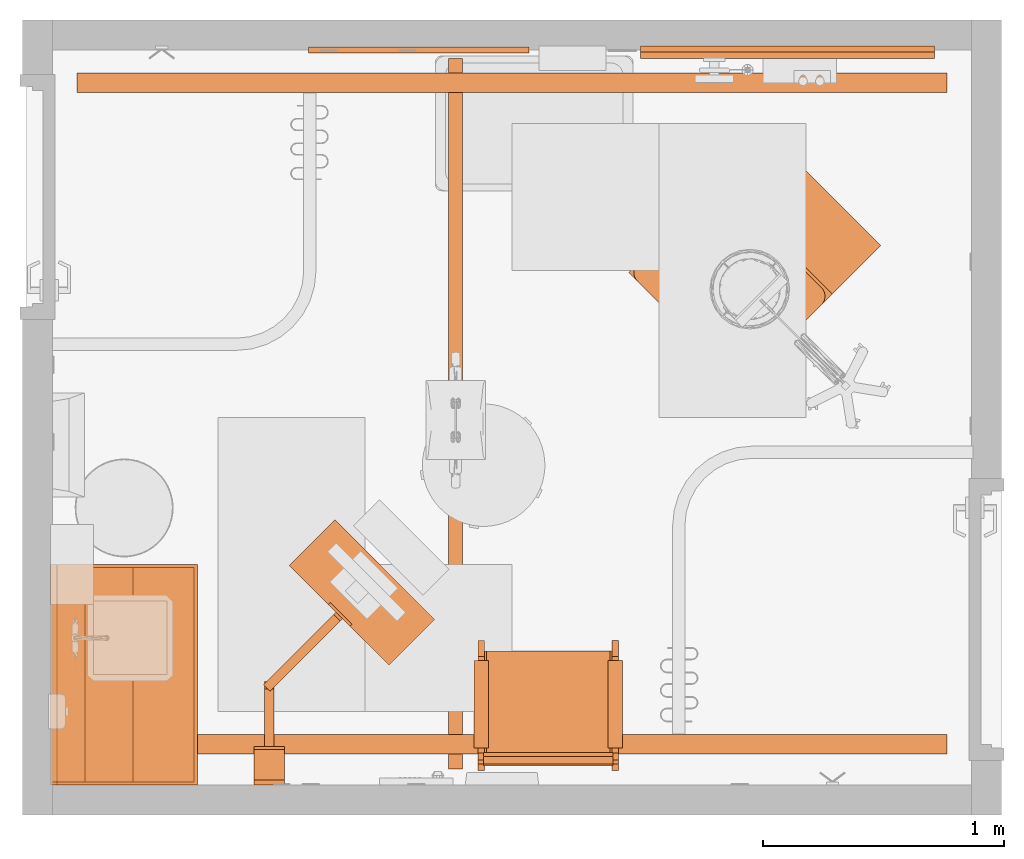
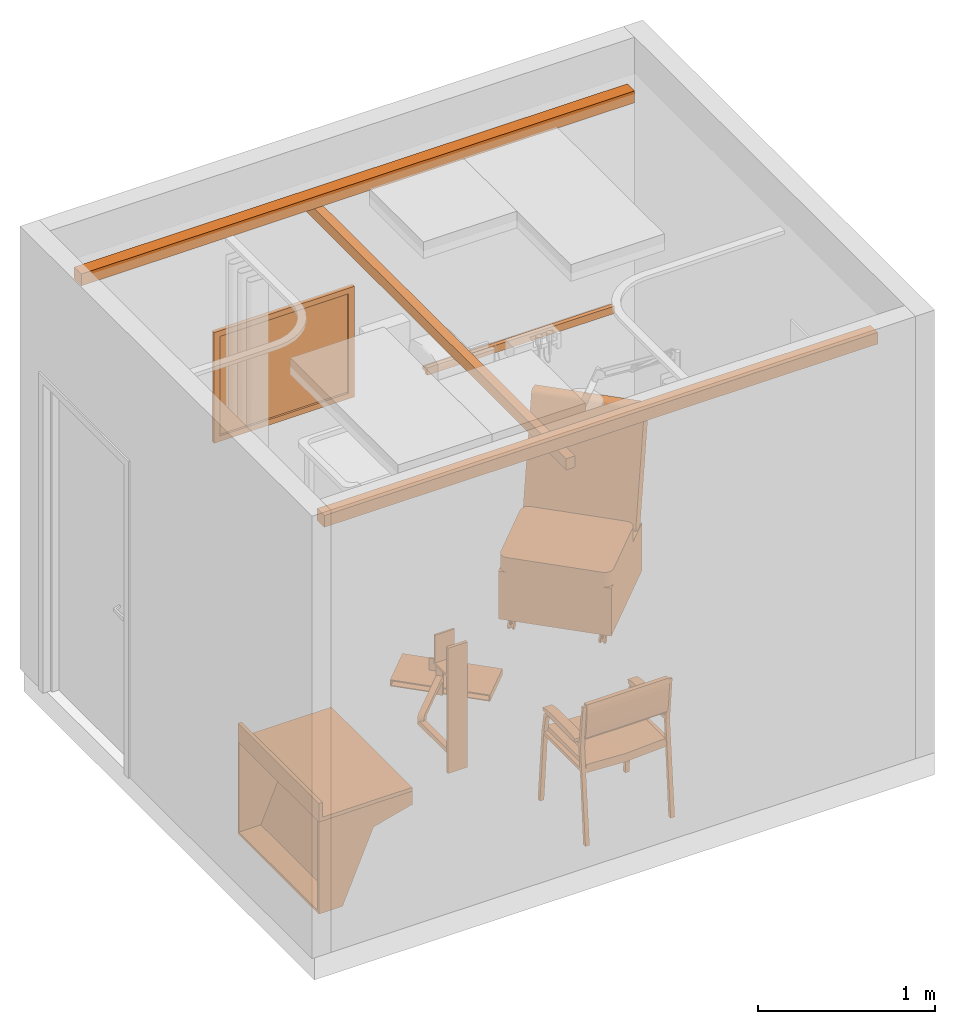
# One storey, part 6 of 8: 8 proxies.
"""IFC2X3 building model written with IfcOpenShell, lengths in feet."""

from ifc_helpers import new_model, entity, si_unit, converted_unit, derived_unit, direction, frame, frame_2d, origin, origin_2d_with_axis, place, context, subcontext, project, spatial, polyline, circle_curve, parameter, trimmed, segment, composite_curve, rectangle, circle, outline, extrude, source, transform, mapped, type_object, type_shapes, element, save


model = new_model("IFC2X3")

# Units and contexts
model_context = context("Model", 3, precision=0.0001, world=origin(), true_north=direction((6.12303176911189e-17, 1.0)))
body_context = subcontext(model_context, "Body", "Model", "MODEL_VIEW")
ifc_project = project(units=[converted_unit("LENGTHUNIT", "FOOT", entity("IfcRatioMeasure", 0.3048), si_unit("LENGTHUNIT", "METRE"), dimensions=[1, 0, 0, 0, 0, 0, 0]), converted_unit("AREAUNIT", "SQUARE FOOT", entity("IfcRatioMeasure", 0.09290304), si_unit("AREAUNIT", "SQUARE_METRE"), dimensions=[2, 0, 0, 0, 0, 0, 0]), converted_unit("VOLUMEUNIT", "CUBIC FOOT", entity("IfcRatioMeasure", 0.028316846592), si_unit("VOLUMEUNIT", "CUBIC_METRE"), dimensions=[3, 0, 0, 0, 0, 0, 0]), converted_unit("PLANEANGLEUNIT", "DEGREE", entity("IfcRatioMeasure", 0.0174532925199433), si_unit("PLANEANGLEUNIT", "RADIAN"), dimensions=[0, 0, 0, 0, 0, 0, 0]), si_unit("MASSUNIT", "GRAM", prefix="KILO"), derived_unit("MASSDENSITYUNIT", [(si_unit("MASSUNIT", "GRAM", prefix="KILO"), 1), (si_unit("LENGTHUNIT", "METRE"), -3)]), si_unit("TIMEUNIT", "SECOND"), si_unit("FREQUENCYUNIT", "HERTZ"), si_unit("THERMODYNAMICTEMPERATUREUNIT", "DEGREE_CELSIUS"), derived_unit("THERMALTRANSMITTANCEUNIT", [(si_unit("MASSUNIT", "GRAM", prefix="KILO"), 1), (si_unit("THERMODYNAMICTEMPERATUREUNIT", "KELVIN"), -1), (si_unit("TIMEUNIT", "SECOND"), -3)]), derived_unit("VOLUMETRICFLOWRATEUNIT", [(si_unit("LENGTHUNIT", "METRE"), 3), (si_unit("TIMEUNIT", "SECOND"), -1)]), si_unit("ELECTRICCURRENTUNIT", "AMPERE"), si_unit("ELECTRICVOLTAGEUNIT", "VOLT"), si_unit("POWERUNIT", "WATT"), si_unit("FORCEUNIT", "NEWTON"), si_unit("ILLUMINANCEUNIT", "LUX"), si_unit("LUMINOUSFLUXUNIT", "LUMEN"), si_unit("LUMINOUSINTENSITYUNIT", "CANDELA"), derived_unit("USERDEFINED", [(si_unit("MASSUNIT", "GRAM", prefix="KILO"), -1), (si_unit("LENGTHUNIT", "METRE"), -2), (si_unit("TIMEUNIT", "SECOND"), 3), (si_unit("LUMINOUSFLUXUNIT", "LUMEN"), 1)]), derived_unit("LINEARVELOCITYUNIT", [(si_unit("LENGTHUNIT", "METRE"), 1), (si_unit("TIMEUNIT", "SECOND"), -1)]), si_unit("PRESSUREUNIT", "PASCAL"), derived_unit("USERDEFINED", [(si_unit("LENGTHUNIT", "METRE"), -2), (si_unit("MASSUNIT", "GRAM", prefix="KILO"), 1), (si_unit("TIMEUNIT", "SECOND"), -2)])], contexts=[model_context])

# Site, building, storey
site_placement = place(None, origin())
site = spatial("IfcSite", under=ifc_project, at=site_placement, Name="Default", CompositionType="ELEMENT")
building_placement = place(site_placement, origin())
building = spatial("IfcBuilding", under=site, at=building_placement, Name="OUTPATIENT / PACT CLINIC (Ch. 265)", CompositionType="ELEMENT")
storey_placement = place(building_placement, origin())
storey = spatial("IfcBuildingStorey", under=building, at=storey_placement, Name="DATUM", CompositionType="ELEMENT", Elevation=0.0)

# Proxy
building_element_proxy_type_1 = type_object("IfcBuildingElementProxyType", Name="F3025 - Board, Bulletin, Wood Framed", PredefinedType="NOTDEFINED")
shared_shape_1 = source(origin(), body_context, "Body", "SweptSolid", [
    extrude(rectangle(XDim=0.0416666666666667, YDim=2.74999999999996, at=origin_2d_with_axis()), frame((0.0, -0.020833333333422, 0.124999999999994), z_axis=(0.0, 0.0, 1.0), x_axis=(0.0, 1.0, 0.0)), (0.0, 0.0, 1.0), 2.25000000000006),
    extrude(outline(polyline([(-1.49999999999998, -1.25), (1.49999999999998, -1.25), (1.49999999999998, 1.25), (-1.49999999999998, 1.25), (-1.49999999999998, -1.25)]), holes=[polyline([(-1.37499999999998, -1.125), (-1.37499999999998, 1.12500000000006), (1.37499999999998, 1.12500000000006), (1.37499999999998, -1.125), (-1.37499999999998, -1.125)])]), frame((0.0, -0.0833333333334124, 1.25), z_axis=(0.0, 1.0, 0.0), x_axis=(-1.0, 0.0, 0.0)), (0.0, 0.0, 1.0), 0.0833333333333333),
])
type_shapes(building_element_proxy_type_1, [shared_shape_1])
proxy_1_placement = place(storey_placement, frame((-202.601554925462, -850.834467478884, 4.0)))
element("IfcBuildingElementProxy", 1, at=proxy_1_placement, inside=storey, type_object=building_element_proxy_type_1, Name="F3025 - Board, Bulletin, Wood Framed:F3025 - Board, Bulletin, Wood Framed", ObjectType="F3025 - Board, Bulletin, Wood Framed", context=body_context, shape_type="MappedRepresentation", body=[
    mapped(shared_shape_1, transform((0.0, 0.0, 0.0), scale=1.0)),
])

# Space
space_placement = place(storey_placement, origin())
space = spatial("IfcSpace", under=storey, at=space_placement, Name="EXPA1", CompositionType="ELEMENT", InteriorOrExteriorSpace="INTERNAL")

# Proxies
building_element_proxy_type_2 = type_object("IfcBuildingElementProxyType", Name="Exam/Treatment Table with Cabinet", PredefinedType="NOTDEFINED")
shared_shape_2 = source(origin(), body_context, "Body", "SweptSolid", [
    extrude(circle(Radius=0.0833333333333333, at=frame_2d((0.0, -1.38777878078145e-16), x_axis=(1.0, 0.0))), frame((-0.843750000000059, 0.432291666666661, 0.0833333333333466), z_axis=(1.0, 0.0, 0.0), x_axis=(0.0, 1.0, 0.0)), (0.0, 0.0, 1.0), 0.0312500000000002),
    extrude(circle(Radius=0.0260416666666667, at=frame_2d((0.0, -5.55111512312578e-17), x_axis=(1.0, 0.0))), frame((-0.87500000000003, 0.463541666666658, 0.0801325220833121), z_axis=(0.0, 0.0, 1.0), x_axis=(-1.0, 0.0, 0.0)), (0.0, 0.0, 1.0), 0.211534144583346),
    extrude(circle(Radius=0.0625, at=frame_2d((0.0, -2.77555756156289e-16), x_axis=(1.0, 0.0))), frame((-0.90625000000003, 0.432291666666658, 0.0833333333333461), z_axis=(1.0, 0.0, 0.0), x_axis=(0.0, -1.0, 0.0)), (0.0, 0.0, 1.0), 0.0625),
    extrude(circle(Radius=0.0833333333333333, at=frame_2d((0.0, -1.38777878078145e-16), x_axis=(1.0, 0.0))), frame((-0.93750000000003, 0.432291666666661, 0.0833333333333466), z_axis=(1.0, 0.0, 0.0), x_axis=(0.0, 1.0, 0.0)), (0.0, 0.0, 1.0), 0.0312500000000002),
    extrude(circle(Radius=0.0833333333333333, at=frame_2d((0.0, -3.7470027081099e-16), x_axis=(1.0, 0.0))), frame((0.81250000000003, 0.432291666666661, 0.083333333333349), z_axis=(1.0, 0.0, 0.0), x_axis=(0.0, 1.0, 0.0)), (0.0, 0.0, 1.0), 0.0312500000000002),
    extrude(circle(Radius=0.0260416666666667, at=frame_2d((0.0, -5.55111512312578e-17), x_axis=(1.0, 0.0))), frame((0.875000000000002, 0.463541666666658, 0.0801325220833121)), (0.0, 0.0, 1.0), 0.211534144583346),
    extrude(circle(Radius=0.0625, at=frame_2d((0.0, -1.11022302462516e-16), x_axis=(1.0, 0.0))), frame((0.843750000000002, 0.432291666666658, 0.0833333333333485), z_axis=(1.0, 0.0, 0.0), x_axis=(0.0, -1.0, 0.0)), (0.0, 0.0, 1.0), 0.0625),
    extrude(circle(Radius=0.0833333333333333, at=frame_2d((0.0, -3.7470027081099e-16), x_axis=(1.0, 0.0))), frame((0.906250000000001, 0.432291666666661, 0.083333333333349), z_axis=(1.0, 0.0, 0.0), x_axis=(0.0, 1.0, 0.0)), (0.0, 0.0, 1.0), 0.0312500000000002),
    extrude(circle(Radius=0.0833333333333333, at=frame_2d((0.0, -1.38777878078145e-16), x_axis=(1.0, 0.0))), frame((-0.843750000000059, -1.41145833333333, 0.0833333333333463), z_axis=(1.0, 0.0, 0.0), x_axis=(0.0, -1.0, 0.0)), (0.0, 0.0, 1.0), 0.0312500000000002),
    extrude(circle(Radius=0.0260416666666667, at=origin_2d_with_axis()), frame((-0.87500000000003, -1.44270833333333, 0.0801325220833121), z_axis=(0.0, 0.0, 1.0), x_axis=(-1.0, 0.0, 0.0)), (0.0, 0.0, 1.0), 0.211534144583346),
    extrude(circle(Radius=0.0625, at=frame_2d((0.0, -2.77555756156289e-16), x_axis=(1.0, 0.0))), frame((-0.90625000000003, -1.41145833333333, 0.0833333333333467), z_axis=(1.0, 0.0, 0.0), x_axis=(0.0, 1.0, 0.0)), (0.0, 0.0, 1.0), 0.0625),
    extrude(circle(Radius=0.0833333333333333, at=frame_2d((0.0, -1.38777878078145e-16), x_axis=(1.0, 0.0))), frame((-0.93750000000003, -1.41145833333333, 0.0833333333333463), z_axis=(1.0, 0.0, 0.0), x_axis=(0.0, -1.0, 0.0)), (0.0, 0.0, 1.0), 0.0312500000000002),
    extrude(circle(Radius=0.0833333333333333, at=frame_2d((0.0, -3.7470027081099e-16), x_axis=(1.0, 0.0))), frame((0.81250000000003, -1.41145833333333, 0.0833333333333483), z_axis=(1.0, 0.0, 0.0), x_axis=(0.0, -1.0, 0.0)), (0.0, 0.0, 1.0), 0.0312500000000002),
    extrude(circle(Radius=0.0260416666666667, at=origin_2d_with_axis()), frame((0.875000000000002, -1.44270833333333, 0.0801325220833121)), (0.0, 0.0, 1.0), 0.211534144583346),
    extrude(circle(Radius=0.0625, at=frame_2d((0.0, -1.11022302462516e-16), x_axis=(1.0, 0.0))), frame((0.843750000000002, -1.41145833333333, 0.0833333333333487), z_axis=(1.0, 0.0, 0.0), x_axis=(0.0, 1.0, 0.0)), (0.0, 0.0, 1.0), 0.0625),
    extrude(circle(Radius=0.0833333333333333, at=frame_2d((0.0, -3.7470027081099e-16), x_axis=(1.0, 0.0))), frame((0.906250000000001, -1.41145833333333, 0.0833333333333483), z_axis=(1.0, 0.0, 0.0), x_axis=(0.0, -1.0, 0.0)), (0.0, 0.0, 1.0), 0.0312500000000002),
    extrude(rectangle(XDim=2.1666666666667, YDim=2.18316882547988, at=origin_2d_with_axis()), frame((0.0, -0.491748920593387, 0.291666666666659), z_axis=(0.0, 0.0, 1.0), x_axis=(-1.0, 0.0, 0.0)), (0.0, 0.0, 1.0), 1.08333333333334),
    extrude(outline(composite_curve([segment(trimmed(circle_curve(frame_2d((-0.221258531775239, -1.14772335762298), x_axis=(1.0, 0.0)), 0.0833333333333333), [parameter(255.0)], [parameter(345.0)], True, "PARAMETER"), True, "CONTINUOUS"), segment(polyline([(-0.140764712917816, -1.16929161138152), (0.462739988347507, 1.08301859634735)]), True, "CONTINUOUS"), segment(trimmed(circle_curve(frame_2d((0.382246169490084, 1.10458685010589), x_axis=(1.0, 0.0)), 0.0833333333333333), [parameter(345.000000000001)], [parameter(75.0000000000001)], True, "PARAMETER"), True, "CONTINUOUS"), segment(polyline([(0.403814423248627, 1.18508066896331), (0.242826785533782, 1.2282171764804)]), True, "CONTINUOUS"), segment(trimmed(circle_curve(frame_2d((0.221258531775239, 1.14772335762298), x_axis=(1.0, 0.0)), 0.0833333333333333), [parameter(74.9999999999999)], [parameter(165.0)], True, "PARAMETER"), True, "CONTINUOUS"), segment(polyline([(0.140764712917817, 1.16929161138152), (-0.462739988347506, -1.08301859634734)]), True, "CONTINUOUS"), segment(trimmed(circle_curve(frame_2d((-0.382246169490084, -1.10458685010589), x_axis=(1.0, 0.0)), 0.0833333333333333), [parameter(165.0)], [parameter(255.0)], True, "PARAMETER"), True, "CONTINUOUS"), segment(polyline([(-0.403814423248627, -1.18508066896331), (-0.242826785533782, -1.2282171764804)]), True, "CONTINUOUS")], self_intersect=False)), frame((-1.08333333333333, 0.632933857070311, 2.62668441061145), z_axis=(1.0, 0.0, 0.0), x_axis=(0.0, 1.0, 0.0)), (0.0, 0.0, 1.0), 2.16666666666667),
    extrude(outline(composite_curve([segment(polyline([(-0.916666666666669, -0.854166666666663), (0.91666666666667, -0.854166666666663)]), True, "CONTINUOUS"), segment(trimmed(circle_curve(frame_2d((0.916666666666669, -0.687499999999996), x_axis=(-1.0, 0.0)), 0.166666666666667), [parameter(90.0000000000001)], [parameter(180.0)], True, "PARAMETER"), True, "CONTINUOUS"), segment(polyline([(1.08333333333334, -0.687499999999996), (1.08333333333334, 0.687499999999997)]), True, "CONTINUOUS"), segment(trimmed(circle_curve(frame_2d((0.916666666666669, 0.687499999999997), x_axis=(-1.0, 0.0)), 0.166666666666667), [parameter(180.0)], [parameter(270.0)], True, "PARAMETER"), True, "CONTINUOUS"), segment(polyline([(0.916666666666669, 0.854166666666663), (-0.91666666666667, 0.854166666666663)]), True, "CONTINUOUS"), segment(trimmed(circle_curve(frame_2d((-0.916666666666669, 0.687499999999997), x_axis=(-1.0, 0.0)), 0.166666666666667), [parameter(270.0)], [parameter(0.0)], True, "PARAMETER"), True, "CONTINUOUS"), segment(polyline([(-1.08333333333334, 0.687499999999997), (-1.08333333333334, -0.687499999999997)]), True, "CONTINUOUS"), segment(trimmed(circle_curve(frame_2d((-0.916666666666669, -0.687499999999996), x_axis=(-1.0, 0.0)), 0.166666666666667), [parameter(0.0)], [parameter(90.0000000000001)], True, "PARAMETER"), True, "CONTINUOUS")], self_intersect=False)), frame((0.0, -0.729166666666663, 1.375), z_axis=(0.0, 0.0, 1.0), x_axis=(-1.0, 0.0, 0.0)), (0.0, 0.0, 1.0), 0.333333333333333),
])
type_shapes(building_element_proxy_type_2, [shared_shape_2])
proxy_2_placement = place(space_placement, frame((-197.862886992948, -853.549596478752, 0.0260416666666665), z_axis=(0.0, 0.0, 1.0), x_axis=(0.707106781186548, -0.707106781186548, 0.0)))
element("IfcBuildingElementProxy", 2, at=proxy_2_placement, inside=space, type_object=building_element_proxy_type_2, Name="M9025 - Exam Table:Exam/Treatment Table with Cabinet", ObjectType="Exam/Treatment Table with Cabinet", context=body_context, shape_type="MappedRepresentation", body=[
    mapped(shared_shape_2, transform((0.0, 0.0, 0.0), scale=1.0)),
])
building_element_proxy_type_3 = type_object("IfcBuildingElementProxyType", Name="F0205 - Chair, Side With Arms", PredefinedType="NOTDEFINED")
shared_shape_3 = source(origin(), body_context, "Body", "SweptSolid", [
    extrude(outline(polyline([(-0.104007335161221, -0.374369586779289), (-0.027711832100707, -0.374369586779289), (-0.0197350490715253, -0.338348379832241), (0.00592434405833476, -0.182113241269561), (0.0162560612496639, -0.135457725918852), (0.0457826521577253, -0.00212284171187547), (0.0856087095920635, 0.177721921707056), (0.112798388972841, 0.276572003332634), (0.120257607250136, 0.307674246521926), (0.129202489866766, 0.415216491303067), (0.045581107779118, 0.433734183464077), (0.0167028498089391, 0.395704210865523), (-0.0364083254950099, 0.222671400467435), (-0.125070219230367, -0.177704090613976), (-0.13682888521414, -0.27538652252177), (-0.128352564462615, -0.36942248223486), (-0.104007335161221, -0.374369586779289)])), frame((-0.891159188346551, -0.878769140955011, 2.73061112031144), z_axis=(0.0, 1.0, 0.0), x_axis=(0.991475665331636, 0.0, -0.130291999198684)), (0.0, 0.0, 1.0), 1.75919993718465),
    extrude(outline(polyline([(0.0907668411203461, -0.842703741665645), (0.261538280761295, -0.842703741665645), (0.265730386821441, -0.773999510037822), (0.127479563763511, 0.0287496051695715), (-0.0923338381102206, 0.813085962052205), (-0.125373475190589, 0.873420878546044), (-0.279635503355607, 0.800086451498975), (-0.270660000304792, 0.752608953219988), (-0.0560029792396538, -0.0126173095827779), (0.0784907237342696, -0.795927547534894), (0.0907668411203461, -0.842703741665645)])), frame((-0.90556950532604, 0.000822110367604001, 1.62079321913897), z_axis=(1.0, 0.0, 0.0), x_axis=(0.0, -0.219936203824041, -0.975514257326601)), (0.0, 0.0, 1.0), 1.47211210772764),
    extrude(outline(polyline([(-0.552031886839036, -0.234422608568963), (-0.484734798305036, -0.234422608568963), (-0.233837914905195, -0.160903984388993), (0.324339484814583, 0.0422559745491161), (0.453697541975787, 0.101150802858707), (0.564536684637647, 0.176717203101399), (0.51204038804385, 0.250193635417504), (0.420212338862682, 0.216770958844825), (0.254858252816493, 0.145732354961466), (-0.246233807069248, -0.0366502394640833), (-0.436544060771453, -0.0986810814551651), (-0.576302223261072, -0.167740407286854), (-0.552031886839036, -0.234422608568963)])), frame((-0.1510824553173, -1.00916916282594, 2.22827697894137), z_axis=(0.0, 1.0, 0.0), x_axis=(0.939692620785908, 0.0, 0.34202014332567)), (0.0, 0.0, 1.0), 0.198199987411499),
    extrude(outline(polyline([(-0.525375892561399, -0.221085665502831), (-0.458078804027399, -0.221085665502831), (-0.207181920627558, -0.147567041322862), (0.350995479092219, 0.0555929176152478), (0.480353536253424, 0.114487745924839), (0.591192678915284, 0.190054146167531), (0.551062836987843, 0.246221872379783), (0.114629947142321, 0.0873732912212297), (0.281514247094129, 0.159069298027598), (-0.219577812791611, -0.0233132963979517), (-0.409888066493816, -0.0853441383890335), (-0.549646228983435, -0.154403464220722), (-0.525375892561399, -0.221085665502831)])), frame((-0.180692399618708, 0.814330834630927, 2.23169271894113), z_axis=(0.0, 1.0, 0.0), x_axis=(0.939692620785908, 0.0, 0.34202014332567)), (0.0, 0.0, 1.0), 0.196499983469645),
    extrude(outline(polyline([(0.0166377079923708, -0.666422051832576), (0.099971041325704, -0.666422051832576), (-0.0172324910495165, 0.673220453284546), (-0.0993762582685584, 0.659623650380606), (0.0166377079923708, -0.666422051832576)])), frame((-0.182442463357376, -0.954369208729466, 1.61480726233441), z_axis=(0.0, 1.0, 0.0), x_axis=(0.0871557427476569, 0.0, -0.996194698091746)), (0.0, 0.0, 1.0), 0.0833333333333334),
    extrude(outline(polyline([(0.0166377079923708, -0.666422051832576), (0.099971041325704, -0.666422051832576), (-0.0172324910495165, 0.673220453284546), (-0.0993762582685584, 0.659623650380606), (0.0166377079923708, -0.666422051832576)])), frame((-0.182442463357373, 0.867430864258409, 1.61480726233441), z_axis=(0.0, 1.0, 0.0), x_axis=(0.0871557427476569, 0.0, -0.996194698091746)), (0.0, 0.0, 1.0), 0.0833333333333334),
    extrude(outline(polyline([(0.811855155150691, -1.61770011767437), (0.895188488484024, -1.61770011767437), (0.71143329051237, 0.489199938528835), (0.806416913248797, 1.46713632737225), (0.751033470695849, 1.46713632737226), (0.656855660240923, 0.571094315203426), (-0.516612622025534, 0.571094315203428), (-0.653571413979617, 0.441277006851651), (-0.728375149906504, 0.0391907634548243), (-0.871611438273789, -1.61770011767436), (-0.791571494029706, -1.61770011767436), (-0.646611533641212, 0.0391998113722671), (-0.578172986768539, 0.407071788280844), (-0.496044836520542, 0.48919993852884), (0.649788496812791, 0.489199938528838), (0.811855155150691, -1.61770011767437)])), frame((-0.163768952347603, -0.954369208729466, 1.61770011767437), z_axis=(0.0, 1.0, 0.0), x_axis=(-1.0, 0.0, 0.0)), (0.0, 0.0, 1.0), 0.0885709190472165),
    extrude(outline(polyline([(0.811855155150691, -1.61770011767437), (0.895188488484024, -1.61770011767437), (0.71143329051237, 0.489199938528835), (0.806416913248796, 1.46713632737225), (0.751033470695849, 1.46713632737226), (0.656855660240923, 0.571094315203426), (-0.516612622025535, 0.571094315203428), (-0.653571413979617, 0.441277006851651), (-0.728375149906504, 0.0391907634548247), (-0.871611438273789, -1.61770011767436), (-0.791571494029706, -1.61770011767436), (-0.646611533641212, 0.0391998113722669), (-0.578172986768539, 0.407071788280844), (-0.496044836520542, 0.48919993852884), (0.649788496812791, 0.489199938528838), (0.811855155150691, -1.61770011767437)])), frame((-0.1637689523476, 0.867430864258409, 1.61770011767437), z_axis=(0.0, 1.0, 0.0), x_axis=(-1.0, 0.0, 0.0)), (0.0, 0.0, 1.0), 0.0885709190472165),
])
type_shapes(building_element_proxy_type_3, [shared_shape_3])
proxy_3_placement = place(space_placement, frame((-200.841138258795, -859.621597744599, 0.0), z_axis=(0.0, 0.0, 1.0), x_axis=(0.0, 1.0, 0.0)))
element("IfcBuildingElementProxy", 3, at=proxy_3_placement, inside=space, type_object=building_element_proxy_type_3, Name="F0205 - Chair, Side With Arms:F0205 - Chair, Side With Arms", ObjectType="F0205 - Chair, Side With Arms", context=body_context, shape_type="MappedRepresentation", body=[
    mapped(shared_shape_3, transform((0.0, 0.0, 0.0), scale=1.0)),
])
building_element_proxy_type_4 = type_object("IfcBuildingElementProxyType", Name="M1803 - Workstation, Computer, Wall Mounted", PredefinedType="NOTDEFINED")
shared_shape_4 = source(origin(), body_context, "Body", "SweptSolid", [
    extrude(circle(Radius=0.104166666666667, at=frame_2d((1.0547118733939e-15, 3.336446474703e-16), x_axis=(1.0, 0.0))), frame((-0.0810226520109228, -1.34888430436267, 0.333333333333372), z_axis=(0.707106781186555, -0.70710678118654, 0.0), x_axis=(0.0, 0.0, 1.0)), (0.0, 0.0, 1.0), 0.125000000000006),
    extrude(outline(composite_curve([segment(polyline([(0.0520833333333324, -0.592708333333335), (0.0520833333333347, 0.644791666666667)]), True, "CONTINUOUS"), segment(polyline([(0.0520833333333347, 0.644791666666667), (-0.0520833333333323, 0.644791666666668)]), True, "CONTINUOUS"), segment(polyline([(-0.0520833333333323, 0.644791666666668), (-0.0520833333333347, -0.696875)]), True, "CONTINUOUS"), segment(trimmed(circle_curve(frame_2d((0.0520833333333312, -0.696875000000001), x_axis=(1.0, 0.0)), 0.104166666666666), [parameter(89.9999999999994)], [parameter(180.0)], True, "PARAMETER"), False, "CONTINUOUS")], self_intersect=False)), frame((-0.0624999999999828, -0.711458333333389, 0.281250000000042), z_axis=(-1.0, 0.0, 0.0), x_axis=(0.0, 0.0, 1.0)), (0.0, 0.0, -1.0), 0.125000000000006),
    extrude(outline(composite_curve([segment(polyline([(0.0520833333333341, -0.651041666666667), (0.0520833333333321, 0.598958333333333)]), True, "CONTINUOUS"), segment(polyline([(0.0520833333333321, 0.598958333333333), (-0.0520833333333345, 0.598958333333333)]), True, "CONTINUOUS"), segment(polyline([(-0.0520833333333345, 0.598958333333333), (-0.0520833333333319, -0.546875)]), True, "CONTINUOUS"), segment(trimmed(circle_curve(frame_2d((-0.0520833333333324, -0.651041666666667), x_axis=(1.0, 0.0)), 0.104166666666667), [parameter(1.01777749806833e-13)], [parameter(90.0000000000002)], True, "PARAMETER"), False, "CONTINUOUS")], self_intersect=False)), frame((-0.452990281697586, -1.89762862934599, 0.385416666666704), z_axis=(0.707106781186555, -0.70710678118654, 0.0), x_axis=(0.0, 0.0, 1.0)), (0.0, 0.0, -1.0), 0.125000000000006),
    extrude(outline(polyline([(-0.0729166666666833, -0.95833333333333), (0.0729166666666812, -0.95833333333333), (0.0729166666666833, 0.95833333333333), (-0.0729166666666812, 0.95833333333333), (-0.0729166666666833, -0.95833333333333)]), holes=[polyline([(-0.05208333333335, -0.937499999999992), (-0.052083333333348, 0.937499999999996), (0.0520833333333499, 0.937499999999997), (0.0520833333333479, -0.937499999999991), (-0.05208333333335, -0.937499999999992)])]), frame((-1.5747857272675, -2.93103572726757, 0.0729166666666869), z_axis=(0.707106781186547, 0.707106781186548, 0.0), x_axis=(0.0, 0.0, -1.0)), (0.0, 0.0, 1.0), 0.883333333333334),
    extrude(rectangle(XDim=0.0666666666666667, YDim=0.416666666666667, at=origin_2d_with_axis()), frame((0.0, -0.0333333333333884, 0.0), z_axis=(0.0, 0.0, 1.0), x_axis=(0.0, 1.0, 0.0)), (0.0, 0.0, 1.0), 0.11949518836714),
    extrude(outline(polyline([(-0.208333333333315, -0.0270833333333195), (-0.0625000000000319, -0.0270833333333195), (-0.0625000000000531, 0.014583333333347), (0.0625000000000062, 0.014583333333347), (0.0625000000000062, -0.0270833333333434), (0.208333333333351, -0.0270833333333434), (0.208333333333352, 0.0395833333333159), (-0.208333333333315, 0.0395833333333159), (-0.208333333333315, -0.0270833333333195)])), frame((0.0, -0.0395833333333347, 0.119495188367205)), (0.0, 0.0, 1.0), 2.0471714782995),
    extrude(outline(polyline([(-0.194444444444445, 0.125), (0.430555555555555, 0.125), (0.430555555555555, 0.166666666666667), (-0.236111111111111, 0.166666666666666), (-0.236111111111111, -0.291666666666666), (-0.194444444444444, -0.291666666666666), (-0.194444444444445, 0.125)])), frame((-0.208333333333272, -0.358333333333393, 2.40277777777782), z_axis=(1.0, 0.0, 0.0), x_axis=(0.0, 0.0, 1.0)), (0.0, 0.0, 1.0), 0.416666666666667),
    extrude(rectangle(XDim=0.0416666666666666, YDim=0.416666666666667, at=frame_2d((4.16333634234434e-17, -5.55111512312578e-17), x_axis=(1.0, 0.0))), frame((-0.964906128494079, -2.3211561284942, 0.503601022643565), z_axis=(0.0, 0.0, 1.0), x_axis=(0.707106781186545, 0.70710678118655, 0.0)), (0.0, 0.0, 1.0), 0.267232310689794),
    extrude(rectangle(XDim=0.125000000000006, YDim=0.0416666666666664, at=frame_2d((-1.94289029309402e-16, 1.16226472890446e-16), x_axis=(1.0, 0.0))), frame((-0.935443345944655, -2.29169334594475, 0.0), z_axis=(0.0, 0.0, 1.0), x_axis=(-0.707106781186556, 0.70710678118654, 0.0)), (0.0, 0.0, 1.0), 0.666666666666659),
    extrude(rectangle(XDim=0.0666666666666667, YDim=0.416666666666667, at=origin_2d_with_axis()), frame((0.0, -0.0333333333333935, 2.16666666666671), z_axis=(0.0, 0.0, 1.0), x_axis=(0.0, 1.0, 0.0)), (0.0, 0.0, 1.0), 0.666666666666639),
])
type_shapes(building_element_proxy_type_4, [shared_shape_4])
proxy_4_placement = place(space_placement, frame((-204.638013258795, -860.876806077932, 2.83333333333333), z_axis=(0.0, 0.0, 1.0), x_axis=(-1.0, 0.0, 0.0)))
element("IfcBuildingElementProxy", 4, at=proxy_4_placement, inside=space, type_object=building_element_proxy_type_4, Name="M1803 - Workstation, Computer, Wall Mounted:M1803 - Workstation, Computer, Wall Mounted", ObjectType="M1803 - Workstation, Computer, Wall Mounted", context=body_context, shape_type="MappedRepresentation", body=[
    mapped(shared_shape_4, transform((0.0, 0.0, 0.0), scale=1.0)),
])
building_element_proxy_type_5 = type_object("IfcBuildingElementProxyType", Name="CT020 - Countertop, Solid Surface - No Opening (1)", PredefinedType="NOTDEFINED")
shared_shape_5 = source(origin(), body_context, "Body", "SweptSolid", [
    extrude(rectangle(XDim=3.0, YDim=0.083333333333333, at=frame_2d((0.0, -5.55111512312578e-17), x_axis=(1.0, 0.0))), frame((0.0, 0.958333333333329, 0.0833333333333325)), (0.0, 0.0, 1.0), 0.333333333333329),
    extrude(rectangle(XDim=3.0, YDim=2.0, at=origin_2d_with_axis()), origin(), (0.0, 0.0, 1.0), 0.0833333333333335),
])
type_shapes(building_element_proxy_type_5, [shared_shape_5])
proxy_5_placement = place(space_placement, frame((-206.611971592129, -859.376806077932, 2.70833333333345), z_axis=(0.0, 0.0, 1.0), x_axis=(0.0, 1.0, 0.0)))
element("IfcBuildingElementProxy", 5, at=proxy_5_placement, inside=space, type_object=building_element_proxy_type_5, Name="CT020 - Countertop, Solid Surface - No Opening (1):CT020 - Countertop, Solid Surface - No Opening (1)", ObjectType="CT020 - Countertop, Solid Surface - No Opening (1)", context=body_context, shape_type="MappedRepresentation", body=[
    mapped(shared_shape_5, transform((0.0, 0.0, 0.0), scale=1.0)),
])
building_element_proxy_type_6 = type_object("IfcBuildingElementProxyType", Name="A1132 - Rail, Accessory Mounting", PredefinedType="NOTDEFINED")
shared_shape_6 = source(origin(), body_context, "Body", "SweptSolid", [
    extrude(outline(polyline([(0.0416666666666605, 0.0), (0.0833333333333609, 0.0), (0.083333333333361, 0.0833333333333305), (-0.0833333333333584, 0.0833333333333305), (-0.0833333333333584, 0.0), (-0.0416666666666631, 0.0), (-0.0416666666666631, -0.0833333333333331), (0.0416666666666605, -0.0833333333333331), (0.0416666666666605, 0.0)])), frame((-2.0, -0.0833333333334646, 0.0833333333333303), z_axis=(1.0, 0.0, 0.0), x_axis=(0.0, 0.0, 1.0)), (0.0, 0.0, 1.0), 4.0),
])
type_shapes(building_element_proxy_type_6, [shared_shape_6])
proxy_6_placement = place(space_placement, frame((-197.585929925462, -850.824722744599, 4.0)))
element("IfcBuildingElementProxy", 6, at=proxy_6_placement, inside=space, type_object=building_element_proxy_type_6, Name="A1132 - Rail, Accessory Mounting:A1132 - Rail, Accessory Mounting", ObjectType="A1132 - Rail, Accessory Mounting", context=body_context, shape_type="MappedRepresentation", body=[
    mapped(shared_shape_6, transform((0.0, 0.0, 0.0), scale=1.0)),
])
building_element_proxy_type_7 = type_object("IfcBuildingElementProxyType", Name="A1203 Lift System, Overhead, Bariatric", PredefinedType="NOTDEFINED")
shared_shape_7 = source(origin(), body_context, "Body", "SweptSolid", [
    extrude(rectangle(XDim=9.66666666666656, YDim=0.190288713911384, at=frame_2d((-8.88178419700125e-16, 0.0), x_axis=(1.0, 0.0))), frame((0.244358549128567, 0.765819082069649, 8.63910761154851), z_axis=(0.0, 0.0, 1.0), x_axis=(-1.0, 0.0, 0.0)), (0.0, 0.0, 1.0), 0.249343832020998),
    extrude(rectangle(XDim=11.8333333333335, YDim=0.267060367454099, at=frame_2d((0.0, 4.44089209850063e-16), x_axis=(1.0, 0.0))), frame((4.74435854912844, 0.0, 8.99015748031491), z_axis=(0.0, 0.0, 1.0), x_axis=(0.0, 1.0, 0.0)), (0.0, 0.0, 1.0), 0.265748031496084),
    extrude(rectangle(XDim=11.8333333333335, YDim=0.267060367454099, at=frame_2d((0.0, -4.44089209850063e-16), x_axis=(1.0, 0.0))), frame((-4.25564145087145, 0.0, 8.99015748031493), z_axis=(0.0, 0.0, 1.0), x_axis=(0.0, 1.0, 0.0)), (0.0, 0.0, 1.0), 0.265748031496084),
])
type_shapes(building_element_proxy_type_7, [shared_shape_7])
proxy_7_placement = place(space_placement, frame((-201.335929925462, -856.069081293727, 0.0), z_axis=(0.0, 0.0, 1.0), x_axis=(0.0, 1.0, 0.0)))
element("IfcBuildingElementProxy", 7, at=proxy_7_placement, inside=space, type_object=building_element_proxy_type_7, Name="A1203 Lift System, Overhead, Bariatric (Traverse):A1203 Lift System, Overhead, Bariatric", ObjectType="A1203 Lift System, Overhead, Bariatric", context=body_context, shape_type="MappedRepresentation", body=[
    mapped(shared_shape_7, transform((0.0, 0.0, 0.0), scale=1.0)),
])
building_element_proxy_type_8 = type_object("IfcBuildingElementProxyType", Name="24\"H x 24\"D x 36\"W", PredefinedType="NOTDEFINED")
shared_shape_8 = source(origin(), body_context, "Body", "SweptSolid", [
    extrude(outline(polyline([(-0.750382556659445, 0.0187614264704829), (0.944711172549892, 0.0187614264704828), (1.14381332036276, 0.488200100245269), (1.08627459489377, 0.51260389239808), (0.903330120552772, 0.081261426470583), (-0.774516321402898, 0.0812614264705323), (-1.30874051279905, -0.586799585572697), (-1.24448981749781, -0.614050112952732), (-0.750382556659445, 0.0187614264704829)])), frame((-1.45833333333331, -1.19293570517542, 1.67489402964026), z_axis=(1.0, 0.0, 0.0), x_axis=(0.0, 0.390460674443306, -0.920619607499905)), (0.0, 0.0, 1.0), 2.91666666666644),
    extrude(outline(polyline([(-1.24925608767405, -0.929380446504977), (0.834077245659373, -0.929380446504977), (0.834077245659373, 1.01791116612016), (0.519077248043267, 1.01791116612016), (0.311280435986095, 0.242403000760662), (-1.24925608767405, -0.41946443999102), (-1.24925608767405, -0.929380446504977)])), frame((-1.49999999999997, -1.2262554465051, 2.06175608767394), z_axis=(1.0, 0.0, 0.0), x_axis=(0.0, 0.0, 1.0)), (0.0, 0.0, 1.0), 0.0416666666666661),
    extrude(rectangle(XDim=3.0, YDim=0.0527083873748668, at=frame_2d((0.0, -2.22044604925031e-16), x_axis=(1.0, 0.0))), frame((0.0, -2.27052080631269, 2.58083333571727), z_axis=(0.0, 0.0, 1.0), x_axis=(-1.0, 0.0, 0.0)), (0.0, 0.0, 1.0), 0.314999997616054),
    extrude(outline(polyline([(-1.24925608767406, -0.929380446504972), (0.834077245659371, -0.929380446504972), (0.834077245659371, 1.01791116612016), (0.519077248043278, 1.01791116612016), (0.311280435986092, 0.24240300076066), (-1.24925608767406, -0.419464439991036), (-1.24925608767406, -0.929380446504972)])), frame((1.45833333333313, -1.22625544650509, 2.06175608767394), z_axis=(1.0, 0.0, 0.0), x_axis=(0.0, 0.0, 1.0)), (0.0, 0.0, 1.0), 0.0416666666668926),
])
type_shapes(building_element_proxy_type_8, [shared_shape_8])
proxy_8_placement = place(space_placement, frame((-207.908846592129, -859.376806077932, -0.187499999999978), z_axis=(0.0, 0.0, 1.0), x_axis=(0.0, 1.0, 0.0)))
element("IfcBuildingElementProxy", 8, at=proxy_8_placement, inside=space, type_object=building_element_proxy_type_8, Name="Z1018 - Cabinet, ADA Sink Support:24\"H x 24\"D x 36\"W", ObjectType="24\"H x 24\"D x 36\"W", context=body_context, shape_type="MappedRepresentation", body=[
    mapped(shared_shape_8, transform((0.0, 0.0, 0.0), scale=1.0)),
])

save(model, "model.ifc")
